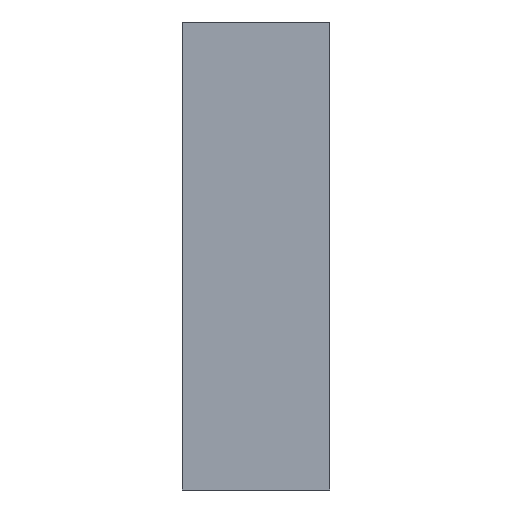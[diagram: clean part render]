
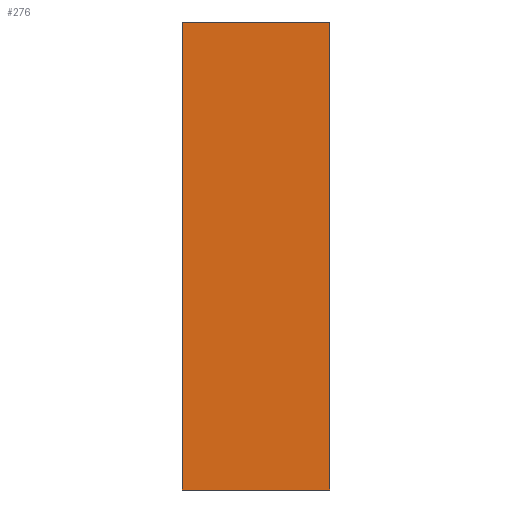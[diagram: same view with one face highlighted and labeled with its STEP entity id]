
A CAD part, front view. The second image highlights one B-rep face of the part: STEP entity #276.
In plain terms, the highlighted planar face has unit normal (0, -1, 0).
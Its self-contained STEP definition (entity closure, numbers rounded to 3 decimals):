
#75 = CARTESIAN_POINT ( 'NONE',  ( 10.261, -21.152, -17.903 ) ) ;
#120 = LINE ( 'NONE', #1505, #1441 ) ;
#145 = CARTESIAN_POINT ( 'NONE',  ( 10.261, -21.152, 14.597 ) ) ;
#209 = ORIENTED_EDGE ( 'NONE', *, *, #299, .T. ) ;
#276 = ADVANCED_FACE ( 'NONE', ( #922 ), #347, .F. ) ;
#299 = EDGE_CURVE ( 'NONE', #1520, #970, #120, .T. ) ;
#311 = LINE ( 'NONE', #799, #1399 ) ;
#315 = VECTOR ( 'NONE', #353, 1000. ) ;
#321 = EDGE_CURVE ( 'NONE', #790, #1426, #709, .T. ) ;
#347 = PLANE ( 'NONE',  #1053 ) ;
#353 = DIRECTION ( 'NONE',  ( -1., 0., 0. ) ) ;
#441 = VECTOR ( 'NONE', #633, 1000. ) ;
#478 = LINE ( 'NONE', #145, #441 ) ;
#570 = CARTESIAN_POINT ( 'NONE',  ( 10.261, -21.152, -17.903 ) ) ;
#633 = DIRECTION ( 'NONE',  ( 0., 0., -1. ) ) ;
#709 = LINE ( 'NONE', #570, #315 ) ;
#790 = VERTEX_POINT ( 'NONE', #75 ) ;
#799 = CARTESIAN_POINT ( 'NONE',  ( 0., -21.152, 14.597 ) ) ;
#861 = CARTESIAN_POINT ( 'NONE',  ( 10.261, -21.152, 14.597 ) ) ;
#922 = FACE_OUTER_BOUND ( 'NONE', #963, .T. ) ;
#934 = CARTESIAN_POINT ( 'NONE',  ( 10.261, -21.152, 14.597 ) ) ;
#941 = DIRECTION ( 'NONE',  ( -1., 0., 0. ) ) ;
#963 = EDGE_LOOP ( 'NONE', ( #1064, #1111, #1020, #209 ) ) ;
#970 = VERTEX_POINT ( 'NONE', #1205 ) ;
#1020 = ORIENTED_EDGE ( 'NONE', *, *, #1270, .F. ) ;
#1053 = AXIS2_PLACEMENT_3D ( 'NONE', #934, #1181, #1278 ) ;
#1064 = ORIENTED_EDGE ( 'NONE', *, *, #1083, .T. ) ;
#1083 = EDGE_CURVE ( 'NONE', #970, #1426, #311, .T. ) ;
#1111 = ORIENTED_EDGE ( 'NONE', *, *, #321, .F. ) ;
#1181 = DIRECTION ( 'NONE',  ( 0., 1., 0. ) ) ;
#1205 = CARTESIAN_POINT ( 'NONE',  ( 0., -21.152, 14.597 ) ) ;
#1239 = DIRECTION ( 'NONE',  ( 0., 0., -1. ) ) ;
#1252 = CARTESIAN_POINT ( 'NONE',  ( 0., -21.152, -17.903 ) ) ;
#1270 = EDGE_CURVE ( 'NONE', #1520, #790, #478, .T. ) ;
#1278 = DIRECTION ( 'NONE',  ( 0., 0., 1. ) ) ;
#1399 = VECTOR ( 'NONE', #1239, 1000. ) ;
#1426 = VERTEX_POINT ( 'NONE', #1252 ) ;
#1441 = VECTOR ( 'NONE', #941, 1000. ) ;
#1505 = CARTESIAN_POINT ( 'NONE',  ( 10.261, -21.152, 14.597 ) ) ;
#1520 = VERTEX_POINT ( 'NONE', #861 ) ;
